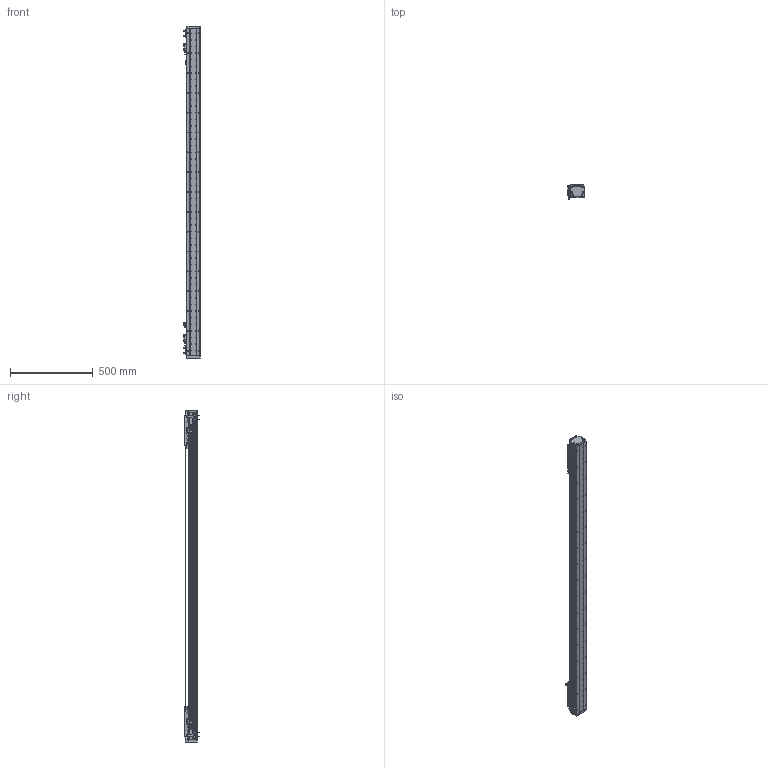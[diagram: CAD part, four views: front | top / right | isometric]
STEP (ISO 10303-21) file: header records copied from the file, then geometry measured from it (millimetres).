
FILE_DESCRIPTION (( 'STEP AP203' ), '1' );
FILE_NAME ('DA-A82-2-B2-T1560-C010-0.2 眻盄萇儂.STEP', '2025-08-13T02:36:49', ( '' ), ( '' ), 'SwSTEP 2.0', 'SolidWorks 2019', '' );
FILE_SCHEMA (( 'CONFIG_CONTROL_DESIGN' ));
Length unit declared in the file: millimetre
Products named in the file (29): 复件 XD-U-02  磁栅尺^DA-A82-B2-T-C010-0.2-N 直线电机; AU82-M-00 珨极趙賑雄怢啣; 复件 六角薄螺母 M3^DA-A82-B2-T-C010-0.2-N 直线电机; 复件 DA82-GYP-ZJ-00 中间光电感应片^DA-A82-B2-T-C010-0.2-N 直线电机; 复件 复件 17517-0000-002-00 端板^DA-A82-B2-T-C010-0.2-N 直线电机; DA-A82-2-B2-T1560-C010-0.2 眻盄萇儂; DA-A60-GYP-DMT-00 光电感应片^DA-A82-B2-T-C010-0.2-N 直线电机(默认); 复件 复件 DA82-XJ-00 缓冲橡胶^DA-A82-B2-T-C010-0.2-N 直线电机; AU82-M 幗紩賑怢; 复件 DA95-B2-GT-00 滑块钢轨^AU82-M-00 一体化滑动台板; 复件 DA60-DMT-DTJ-00 读数头支架^DA-A82-B2-T-C010-0.2-N 直线电机; 复件 复件 17517-0000-004-00  钢带压块^DA-A82-B2-T-C010-0.2-N 直线电机(默认); 复件 纯铜油杯 6x6mm^AU82-M 滚珠滑台; 复件 DA95-GT-T-00 底座钢轨^IU-AU82-L 底座导轨; 复件 复件 复件 DA82 钢带盖板^DA-A82-B2-T-C010-0.2-N 直线电机(默认); 葩璃 DA82-B2-DP-00 結え^AU82-M 幗紩賑怢; IU-AU82-L 菁釱絳寢; 葩璃 PM-T45^DA-A82-B2-T-C010-0.2-N 眻盄萇儂; IU-AU82-L-00 菁釱(L1980); 复件 DKW-GJ-XJ-00 防撞橡胶^DA-A82-B2-T-C010-0.2-N 直线电机; AU82-M 幗紩賑怢-1; 葩璃 BKM01-W040-TRL^DA-A82-B2-T-C010-0.2-N 眻盄萇儂; 复件 复件 17517-0000-003-00 钢带拉块^DA-A82-B2-T-C010-0.2-N 直线电机; 葩璃 DMT-010 1米m 0.2M^DA-A82-B2-T-C010-0.2-N 眻盄萇儂; AU82-M-00 珨极趙賑雄怢啣-1; 复件 BKM02-W040-C1-TP-DA-3.0 直线电机动子^DA-A82-B2-T-C010-0.2-N 直线电机; 复件 DA82-GDZ-ZJ-00 中间光电固定座^DA-A82-B2-T-C010-0.2-N 直线电机; 葩璃 PM-L25^DA-A82-B2-T-C010-0.2-N 眻盄萇儂; AU82-HT-M-00 賑雄怢啣
Assembly tree (61 placements, depth 4):
  DA-A82-2-B2-T1560-C010-0.2 眻盄萇儂
    IU-AU82-L 菁釱絳寢
      IU-AU82-L-00 菁釱(L1980)
      复件 DA95-GT-T-00 底座钢轨^IU-AU82-L 底座导轨  x2
    AU82-M 幗紩賑怢
      AU82-M-00 珨极趙賑雄怢啣
        AU82-HT-M-00 賑雄怢啣
        复件 DA95-B2-GT-00 滑块钢轨^AU82-M-00 一体化滑动台板  x4
      葩璃 DA82-B2-DP-00 結え^AU82-M 幗紩賑怢  x2
      复件 纯铜油杯 6x6mm^AU82-M 滚珠滑台  x2
    AU82-M 幗紩賑怢-1
      AU82-M-00 珨极趙賑雄怢啣-1
        AU82-HT-M-00 賑雄怢啣
        复件 DA95-B2-GT-00 滑块钢轨^AU82-M-00 一体化滑动台板  x4
      葩璃 DA82-B2-DP-00 結え^AU82-M 幗紩賑怢  x2
      复件 纯铜油杯 6x6mm^AU82-M 滚珠滑台  x2
    复件 BKM02-W040-C1-TP-DA-3.0 直线电机动子^DA-A82-B2-T-C010-0.2-N 直线电机  x2
    复件 DA60-DMT-DTJ-00 读数头支架^DA-A82-B2-T-C010-0.2-N 直线电机  x2
    葩璃 DMT-010 1米m 0.2M^DA-A82-B2-T-C010-0.2-N 眻盄萇儂  x2
    DA-A60-GYP-DMT-00 光电感应片^DA-A82-B2-T-C010-0.2-N 直线电机(默认)  x2
    复件 DA82-GDZ-ZJ-00 中间光电固定座^DA-A82-B2-T-C010-0.2-N 直线电机
    葩璃 PM-L25^DA-A82-B2-T-C010-0.2-N 眻盄萇儂
    复件 DA82-GYP-ZJ-00 中间光电感应片^DA-A82-B2-T-C010-0.2-N 直线电机
    复件 DKW-GJ-XJ-00 防撞橡胶^DA-A82-B2-T-C010-0.2-N 直线电机
    复件 复件 17517-0000-003-00 钢带拉块^DA-A82-B2-T-C010-0.2-N 直线电机  x2
    复件 复件 DA82-XJ-00 缓冲橡胶^DA-A82-B2-T-C010-0.2-N 直线电机  x2
    复件 复件 17517-0000-004-00  钢带压块^DA-A82-B2-T-C010-0.2-N 直线电机(默认)  x2
    复件 复件 17517-0000-002-00 端板^DA-A82-B2-T-C010-0.2-N 直线电机  x2
    复件 复件 复件 DA82 钢带盖板^DA-A82-B2-T-C010-0.2-N 直线电机(默认)
    葩璃 BKM01-W040-TRL^DA-A82-B2-T-C010-0.2-N 眻盄萇儂
    葩璃 PM-T45^DA-A82-B2-T-C010-0.2-N 眻盄萇儂  x4
    复件 XD-U-02  磁栅尺^DA-A82-B2-T-C010-0.2-N 直线电机
    复件 六角薄螺母 M3^DA-A82-B2-T-C010-0.2-N 直线电机  x8
Bounding box: 98.95 x 87.2 x 2008 mm (x, y, z)
Volume: 6119069 mm3; surface area: 1832629.4 mm2
Topology: 70 solids, 118 shells, 3559 faces, 9281 edges, 5790 vertices
Faces by surface type: cylinder 1683, plane 1384, cone 456, bspline 16, torus 16, sphere 4
Entity records: 77541 total; most frequent: CARTESIAN_POINT 17633, DIRECTION 11987, ORIENTED_EDGE 11344, EDGE_CURVE 5672, AXIS2_PLACEMENT_3D 4599, VERTEX_POINT 3694, EDGE_LOOP 2886, LINE 2789
